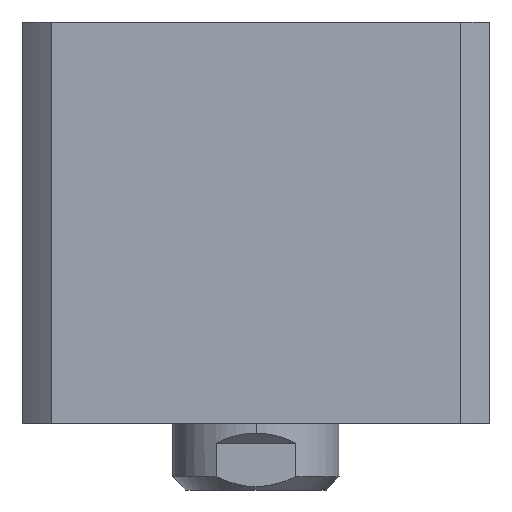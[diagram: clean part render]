
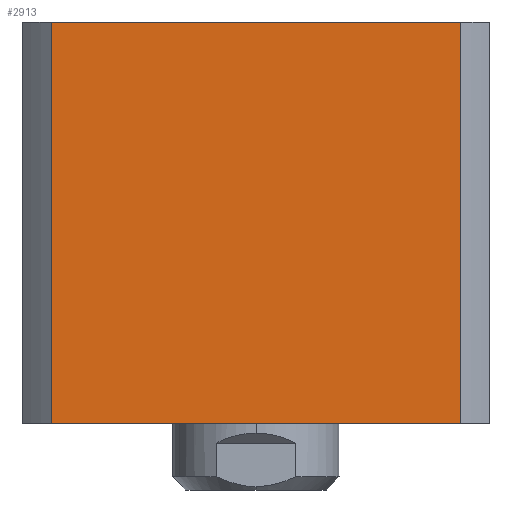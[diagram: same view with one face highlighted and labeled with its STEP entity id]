
A CAD part, front view. The second image highlights one B-rep face of the part: STEP entity #2913.
In plain terms, the highlighted planar face has unit normal (0, -1, 0) as drawn and (1, 0, 0) by its records, which use the part's own axes.
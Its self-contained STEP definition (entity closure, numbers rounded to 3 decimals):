
#107 = EDGE_CURVE ( 'NONE', #9592, #2716, #10027, .T. ) ;
#140 = ORIENTED_EDGE ( 'NONE', *, *, #10010, .F. ) ;
#207 = CARTESIAN_POINT ( 'NONE',  ( 35., 35., 60. ) ) ;
#618 = DIRECTION ( 'NONE',  ( 0., 0., -1. ) ) ;
#1038 = FACE_OUTER_BOUND ( 'NONE', #5455, .T. ) ;
#1531 = CARTESIAN_POINT ( 'NONE',  ( 35., 30.615, 60. ) ) ;
#1726 = PLANE ( 'NONE',  #2106 ) ;
#1740 = DIRECTION ( 'NONE',  ( 0., 1., 0. ) ) ;
#1759 = DIRECTION ( 'NONE',  ( -1., 0., 0. ) ) ;
#2007 = VECTOR ( 'NONE', #1740, 1000. ) ;
#2106 = AXIS2_PLACEMENT_3D ( 'NONE', #207, #1759, #7222 ) ;
#2337 = ORIENTED_EDGE ( 'NONE', *, *, #9858, .F. ) ;
#2361 = VECTOR ( 'NONE', #618, 1000. ) ;
#2436 = CARTESIAN_POINT ( 'NONE',  ( 35., -30.615, 60. ) ) ;
#2525 = CARTESIAN_POINT ( 'NONE',  ( 35., 35., 0. ) ) ;
#2716 = VERTEX_POINT ( 'NONE', #4678 ) ;
#2913 = ADVANCED_FACE ( 'NONE', ( #1038 ), #1726, .F. ) ;
#3720 = CARTESIAN_POINT ( 'NONE',  ( 35., 30.615, 300. ) ) ;
#3803 = ORIENTED_EDGE ( 'NONE', *, *, #107, .T. ) ;
#4208 = LINE ( 'NONE', #4376, #6274 ) ;
#4376 = CARTESIAN_POINT ( 'NONE',  ( 35., 35., 60. ) ) ;
#4422 = LINE ( 'NONE', #3720, #2361 ) ;
#4678 = CARTESIAN_POINT ( 'NONE',  ( 35., 30.615, 0. ) ) ;
#5122 = DIRECTION ( 'NONE',  ( 0., 0., 1. ) ) ;
#5196 = DIRECTION ( 'NONE',  ( 0., 1., 0. ) ) ;
#5455 = EDGE_LOOP ( 'NONE', ( #140, #8734, #2337, #3803 ) ) ;
#5699 = VERTEX_POINT ( 'NONE', #2436 ) ;
#6274 = VECTOR ( 'NONE', #5196, 1000. ) ;
#6721 = VERTEX_POINT ( 'NONE', #1531 ) ;
#7222 = DIRECTION ( 'NONE',  ( 0., 0., 1. ) ) ;
#7254 = LINE ( 'NONE', #7441, #9053 ) ;
#7441 = CARTESIAN_POINT ( 'NONE',  ( 35., -30.615, 300. ) ) ;
#7996 = EDGE_CURVE ( 'NONE', #5699, #6721, #4208, .T. ) ;
#8734 = ORIENTED_EDGE ( 'NONE', *, *, #7996, .F. ) ;
#9053 = VECTOR ( 'NONE', #5122, 1000. ) ;
#9372 = CARTESIAN_POINT ( 'NONE',  ( 35., -30.615, 0. ) ) ;
#9592 = VERTEX_POINT ( 'NONE', #9372 ) ;
#9858 = EDGE_CURVE ( 'NONE', #9592, #5699, #7254, .T. ) ;
#10010 = EDGE_CURVE ( 'NONE', #6721, #2716, #4422, .T. ) ;
#10027 = LINE ( 'NONE', #2525, #2007 ) ;
